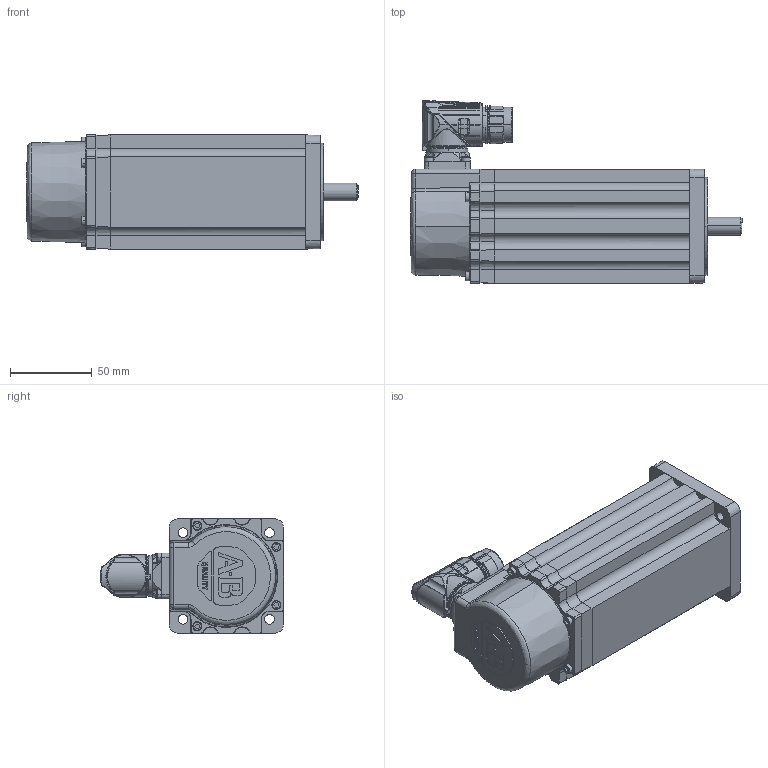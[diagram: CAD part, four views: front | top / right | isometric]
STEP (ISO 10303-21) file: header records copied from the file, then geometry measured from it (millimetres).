
FILE_DESCRIPTION (( 'STEP AP214' ), '1' );
FILE_NAME ('Rockwell Automation-$PARTNUMBER.STEP', '2014-03-10T16:39:35', ( 'Windows User' ), ( '' ), 'SwSTEP 2.0', 'SolidWorks 2014', '' );
FILE_SCHEMA (( 'AUTOMOTIVE_DESIGN' ));
Length unit declared in the file: inch
Products named in the file (26): Rockwell Automation-$PARTNUMBER_Rockwell Automation-VPL-x0752x-xKx4xx_10000014326-1; Rockwell Automation-$PARTNUMBER_Rockwell Automation-VPL-x0752x-xKx4xx_10000014325-1; Rockwell Automation-$PARTNUMBER_Rockwell Automation-VPL-x0752x-xKx4xx_10000540833; Rockwell Automation-$PARTNUMBER_Rockwell Automation-VPL-x0752x-xKx4xx_FRONT_without key_1; Rockwell Automation-$PARTNUMBER_Rockwell Automation-VPL-x0752x-xKx4xx_FRONT_1; Rockwell Automation-$PARTNUMBER_Rockwell Automation-VPL-x0752x-xKx4xx_tab; Rockwell Automation-$PARTNUMBER_Rockwell Automation-VPL-x0752x-xKx4xx_10000169222_ANY_1; Rockwell Automation-$PARTNUMBER_Rockwell Automation-VPL-x0752x-xKx4xx_vpl-075_0752_without key_break; Rockwell Automation-$PARTNUMBER_Rockwell Automation-VPL-x0752x-xKx4xx_10000206536_ASM_ANY_ASM_1; Rockwell Automation-$PARTNUMBER_Rockwell Automation-VPL-x0752x-xKx4xx_without key_3_Shaft_K_2_4; Rockwell Automation-$PARTNUMBER_Rockwell Automation-VPL-x0752x-xKx4xx_10000206535_AF0_ANY_1; Rockwell Automation-$PARTNUMBER_Rockwell Automation-VPL-x0752x-xKx4xx_REAR_ASM_ANY_ASM; Rockwell Automation-$PARTNUMBER_Rockwell Automation-VPL-x0752x-xKx4xx_10000210273_AF2_ANY_1; Rockwell Automation-$PARTNUMBER_Rockwell Automation-VPL-x0752x-xKx4xx_PRT0002; Rockwell Automation-$PARTNUMBER_Rockwell Automation-VPL-x0752x-xKx4xx_10000213398_ANY_1; Rockwell Automation-$PARTNUMBER_Rockwell Automation-VPL-x0752x-xKx4xx_PRT0001; Rockwell Automation-$PARTNUMBER_Rockwell Automation-VPL-x0752x-xKx4xx_vpl-middle-075_0752-k-Break; Rockwell Automation-$PARTNUMBER_Rockwell Automation-VPL-x0752x-xKx4xx_10000220495_ASM_1_ANY_ASM; Rockwell Automation-$PARTNUMBER_Rockwell Automation-VPL-x0752x-xKx4xx_10000206533_AF0_ANY; Rockwell Automation-$PARTNUMBER; Rockwell Automation-$PARTNUMBER_Rockwell Automation-VPL-x0752x-xKx4xx_10000220495_ASM_ANY; Rockwell Automation-$PARTNUMBER_Rockwell Automation-VPL-x0752x-xKx4xx_10000205606_AF31_ANY; Rockwell Automation-$PARTNUMBER_Rockwell Automation-VPL-x0752x-xKx4xx_10000218021_ANY; Rockwell Automation-$PARTNUMBER_Rockwell Automation-VPL-x0752x-xKx4xx_91290A115_ANY; Rockwell Automation-$PARTNUMBER_Rockwell Automation-VPL-x0752x-xKx4xx_M23_Connector; Rockwell Automation-$PARTNUMBER_Rockwell Automation-VPL-x0752x-xKx4xx_10000014326-M23_ASM
Assembly tree (35 placements, depth 6):
  Rockwell Automation-$PARTNUMBER_Rockwell Automation-VPL-x0752x-xKx4xx_tab
  Rockwell Automation-$PARTNUMBER
    Rockwell Automation-$PARTNUMBER_Rockwell Automation-VPL-x0752x-xKx4xx_vpl-075_0752_without key_break
      Rockwell Automation-$PARTNUMBER_Rockwell Automation-VPL-x0752x-xKx4xx_vpl-middle-075_0752-k-Break
      Rockwell Automation-$PARTNUMBER_Rockwell Automation-VPL-x0752x-xKx4xx_FRONT_without key_1
        Rockwell Automation-$PARTNUMBER_Rockwell Automation-VPL-x0752x-xKx4xx_FRONT_1
          Rockwell Automation-$PARTNUMBER_Rockwell Automation-VPL-x0752x-xKx4xx_10000213398_ANY_1
          Rockwell Automation-$PARTNUMBER_Rockwell Automation-VPL-x0752x-xKx4xx_10000206536_ASM_ANY_ASM_1
            Rockwell Automation-$PARTNUMBER_Rockwell Automation-VPL-x0752x-xKx4xx_10000210273_AF2_ANY_1
            Rockwell Automation-$PARTNUMBER_Rockwell Automation-VPL-x0752x-xKx4xx_10000206535_AF0_ANY_1
          Rockwell Automation-$PARTNUMBER_Rockwell Automation-VPL-x0752x-xKx4xx_10000169222_ANY_1  x4
      Rockwell Automation-$PARTNUMBER_Rockwell Automation-VPL-x0752x-xKx4xx_REAR_ASM_ANY_ASM
        Rockwell Automation-$PARTNUMBER_Rockwell Automation-VPL-x0752x-xKx4xx_M23_Connector
          Rockwell Automation-$PARTNUMBER_Rockwell Automation-VPL-x0752x-xKx4xx_10000540833
          Rockwell Automation-$PARTNUMBER_Rockwell Automation-VPL-x0752x-xKx4xx_10000014325-1
          Rockwell Automation-$PARTNUMBER_Rockwell Automation-VPL-x0752x-xKx4xx_10000014326-M23_ASM
            Rockwell Automation-$PARTNUMBER_Rockwell Automation-VPL-x0752x-xKx4xx_10000014326-1
        Rockwell Automation-$PARTNUMBER_Rockwell Automation-VPL-x0752x-xKx4xx_91290A115_ANY  x4
        Rockwell Automation-$PARTNUMBER_Rockwell Automation-VPL-x0752x-xKx4xx_10000218021_ANY  x2
        Rockwell Automation-$PARTNUMBER_Rockwell Automation-VPL-x0752x-xKx4xx_10000220495_ASM_1_ANY_ASM
          Rockwell Automation-$PARTNUMBER_Rockwell Automation-VPL-x0752x-xKx4xx_10000205606_AF31_ANY
          Rockwell Automation-$PARTNUMBER_Rockwell Automation-VPL-x0752x-xKx4xx_10000220495_ASM_ANY  x2
          Rockwell Automation-$PARTNUMBER_Rockwell Automation-VPL-x0752x-xKx4xx_10000206533_AF0_ANY
        Rockwell Automation-$PARTNUMBER_Rockwell Automation-VPL-x0752x-xKx4xx_PRT0001  x4
        Rockwell Automation-$PARTNUMBER_Rockwell Automation-VPL-x0752x-xKx4xx_PRT0002
      Rockwell Automation-$PARTNUMBER_Rockwell Automation-VPL-x0752x-xKx4xx_without key_3_Shaft_K_2_4
Bounding box: 203.5 x 112.23 x 70.31 mm (x, y, z)
Volume: 346191.4 mm3; surface area: 182261.5 mm2
Topology: 21 solids, 41 shells, 3121 faces, 8572 edges, 5551 vertices
Faces by surface type: cylinder 1014, plane 935, bspline 787, cone 383, torus 2
Entity records: 160150 total; most frequent: CARTESIAN_POINT 87141, ORIENTED_EDGE 14393, DIRECTION 8507, EDGE_CURVE 7215, VERTEX_POINT 4734, B_SPLINE_CURVE_WITH_KNOTS 3657, AXIS2_PLACEMENT_3D 3190, EDGE_LOOP 2765
